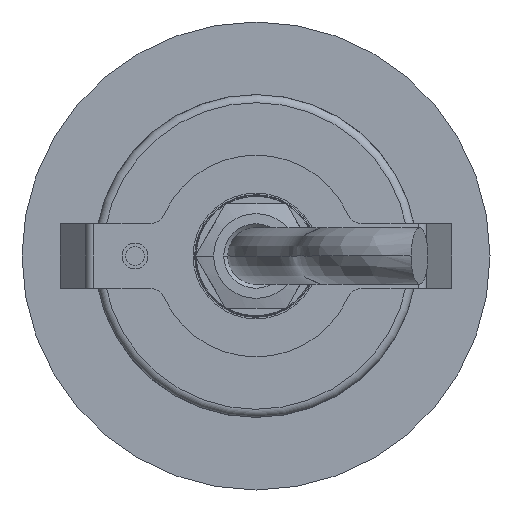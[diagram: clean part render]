
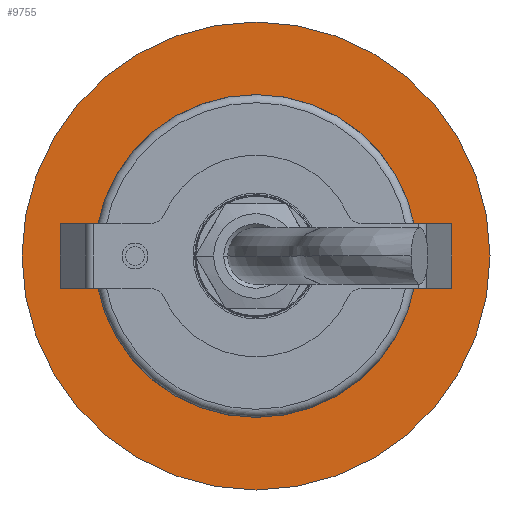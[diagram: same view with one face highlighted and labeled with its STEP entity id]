
A CAD part, front view. The second image highlights one B-rep face of the part: STEP entity #9755.
In plain terms, the highlighted planar face has unit normal (0, -1, 0).
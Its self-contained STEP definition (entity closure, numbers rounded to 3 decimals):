
#8119=CARTESIAN_POINT('',(0.,0.,0.));
#8120=DIRECTION('',(0.,1.,0.));
#8121=DIRECTION('',(1.,0.,0.));
#8122=AXIS2_PLACEMENT_3D('',#8119,#8120,#8121);
#8124=CARTESIAN_POINT('',(0.,0.,0.));
#8125=DIRECTION('',(0.,1.,0.));
#8126=DIRECTION('',(-1.,0.,0.));
#8127=AXIS2_PLACEMENT_3D('',#8124,#8125,#8126);
#8129=CARTESIAN_POINT('',(0.,0.,0.));
#8130=DIRECTION('',(0.,-1.,0.));
#8131=DIRECTION('',(1.,0.,0.));
#8132=AXIS2_PLACEMENT_3D('',#8129,#8130,#8131);
#8134=CARTESIAN_POINT('',(0.,0.,0.));
#8135=DIRECTION('',(0.,-1.,0.));
#8136=DIRECTION('',(-1.,0.,0.));
#8137=AXIS2_PLACEMENT_3D('',#8134,#8135,#8136);
#9534=CARTESIAN_POINT('',(29.,0.,0.));
#9535=VERTEX_POINT('',#9534);
#9536=CARTESIAN_POINT('',(-29.,0.,0.));
#9537=VERTEX_POINT('',#9536);
#9634=CARTESIAN_POINT('',(20.,0.,0.));
#9635=VERTEX_POINT('',#9634);
#9636=CARTESIAN_POINT('',(-20.,0.,0.));
#9637=VERTEX_POINT('',#9636);
#9740=CARTESIAN_POINT('',(0.,0.,0.));
#9741=DIRECTION('',(0.,-1.,0.));
#9742=DIRECTION('',(-1.,0.,0.));
#9743=AXIS2_PLACEMENT_3D('',#9740,#9741,#9742);
#9744=PLANE('',#9743);
#9745=ORIENTED_EDGE('',*,*,#9734,.T.);
#9746=ORIENTED_EDGE('',*,*,#9661,.T.);
#9747=EDGE_LOOP('',(#9745,#9746));
#9748=FACE_OUTER_BOUND('',#9747,.F.);
#9750=ORIENTED_EDGE('',*,*,#9749,.T.);
#9752=ORIENTED_EDGE('',*,*,#9751,.T.);
#9753=EDGE_LOOP('',(#9750,#9752));
#9754=FACE_BOUND('',#9753,.F.);
#8123=CIRCLE('',#8122,29.);
#8128=CIRCLE('',#8127,29.);
#8133=CIRCLE('',#8132,20.);
#8138=CIRCLE('',#8137,20.);
#9661=EDGE_CURVE('',#9537,#9535,#8128,.T.);
#9734=EDGE_CURVE('',#9535,#9537,#8123,.T.);
#9749=EDGE_CURVE('',#9635,#9637,#8133,.T.);
#9751=EDGE_CURVE('',#9637,#9635,#8138,.T.);
#9755=ADVANCED_FACE('',(#9748,#9754),#9744,.T.);
